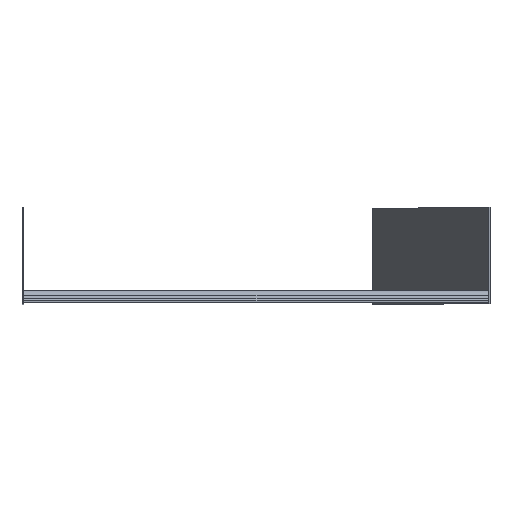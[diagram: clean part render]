
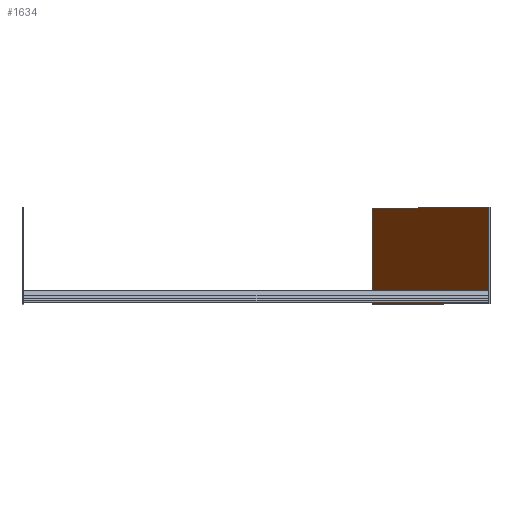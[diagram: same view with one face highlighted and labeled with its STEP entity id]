
A CAD part, top view. The second image highlights one B-rep face of the part: STEP entity #1634.
In plain terms, the highlighted planar face has unit normal (-0.881, 0, 0.472).
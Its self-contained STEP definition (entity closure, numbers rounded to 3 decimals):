
#207 = VERTEX_POINT ( 'NONE', #9821 ) ;
#1245 = EDGE_CURVE ( 'NONE', #207, #9884, #8018, .T. ) ;
#1575 = ORIENTED_EDGE ( 'NONE', *, *, #10582, .T. ) ;
#1634 = ADVANCED_FACE ( 'NONE', ( #11507 ), #11445, .T. ) ;
#2293 = ORIENTED_EDGE ( 'NONE', *, *, #2794, .F. ) ;
#2467 = DIRECTION ( 'NONE',  ( 0.472, 0., 0.881 ) ) ;
#2794 = EDGE_CURVE ( 'NONE', #4547, #10895, #5911, .T. ) ;
#3237 = CARTESIAN_POINT ( 'NONE',  ( 375., 0., 0. ) ) ;
#3422 = EDGE_LOOP ( 'NONE', ( #2293, #3435, #9413, #1575 ) ) ;
#3435 = ORIENTED_EDGE ( 'NONE', *, *, #4929, .F. ) ;
#3458 = DIRECTION ( 'NONE',  ( -0.881, 0., 0.472 ) ) ;
#3488 = VECTOR ( 'NONE', #6279, 1000. ) ;
#3561 = CARTESIAN_POINT ( 'NONE',  ( 375., 124., 0. ) ) ;
#3807 = DIRECTION ( 'NONE',  ( 0., 1., 0. ) ) ;
#4422 = LINE ( 'NONE', #3561, #3488 ) ;
#4547 = VERTEX_POINT ( 'NONE', #7790 ) ;
#4929 = EDGE_CURVE ( 'NONE', #207, #4547, #11229, .T. ) ;
#5039 = DIRECTION ( 'NONE',  ( 0., 1., 0. ) ) ;
#5476 = VECTOR ( 'NONE', #9538, 1000. ) ;
#5601 = CARTESIAN_POINT ( 'NONE',  ( 374.822, 0., -0.332 ) ) ;
#5911 = LINE ( 'NONE', #6847, #9917 ) ;
#6279 = DIRECTION ( 'NONE',  ( -0.472, 0., -0.881 ) ) ;
#6847 = CARTESIAN_POINT ( 'NONE',  ( 225.415, 0., -279.226 ) ) ;
#7059 = CARTESIAN_POINT ( 'NONE',  ( 375., 124., 0. ) ) ;
#7790 = CARTESIAN_POINT ( 'NONE',  ( 225.415, 0., -279.226 ) ) ;
#8018 = LINE ( 'NONE', #5601, #11193 ) ;
#9413 = ORIENTED_EDGE ( 'NONE', *, *, #1245, .T. ) ;
#9538 = DIRECTION ( 'NONE',  ( -0.472, 0., -0.881 ) ) ;
#9821 = CARTESIAN_POINT ( 'NONE',  ( 374.822, 0., -0.332 ) ) ;
#9884 = VERTEX_POINT ( 'NONE', #10049 ) ;
#9898 = AXIS2_PLACEMENT_3D ( 'NONE', #7059, #3458, #2467 ) ;
#9917 = VECTOR ( 'NONE', #5039, 1000. ) ;
#10049 = CARTESIAN_POINT ( 'NONE',  ( 374.822, 124., -0.332 ) ) ;
#10582 = EDGE_CURVE ( 'NONE', #9884, #10895, #4422, .T. ) ;
#10895 = VERTEX_POINT ( 'NONE', #11128 ) ;
#11128 = CARTESIAN_POINT ( 'NONE',  ( 225.415, 124., -279.226 ) ) ;
#11193 = VECTOR ( 'NONE', #3807, 1000. ) ;
#11229 = LINE ( 'NONE', #3237, #5476 ) ;
#11445 = PLANE ( 'NONE',  #9898 ) ;
#11507 = FACE_OUTER_BOUND ( 'NONE', #3422, .T. ) ;
